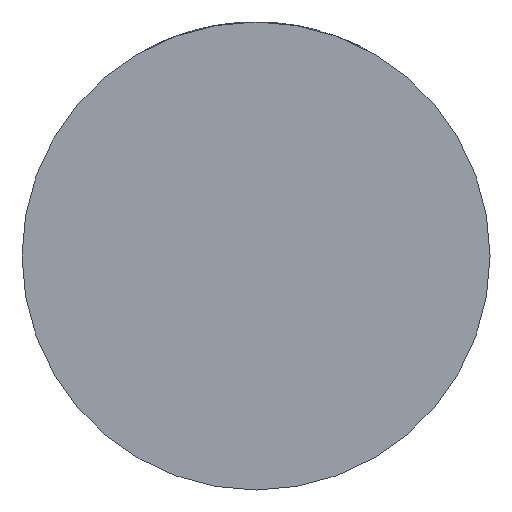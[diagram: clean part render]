
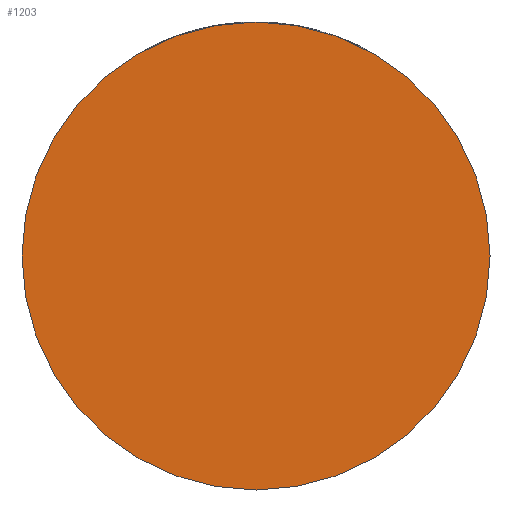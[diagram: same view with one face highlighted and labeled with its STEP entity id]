
A CAD part, front view. The second image highlights one B-rep face of the part: STEP entity #1203.
In plain terms, the highlighted planar face has unit normal (0, -1, 0).
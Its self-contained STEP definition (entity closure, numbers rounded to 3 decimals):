
#122 = EDGE_LOOP ( 'NONE', ( #777, #3093 ) ) ;
#328 = DIRECTION ( 'NONE',  ( 1., 0., 0. ) ) ;
#361 = AXIS2_PLACEMENT_3D ( 'NONE', #3827, #680, #328 ) ;
#408 = EDGE_CURVE ( 'NONE', #3249, #852, #1563, .T. ) ;
#680 = DIRECTION ( 'NONE',  ( 0., -1., 0. ) ) ;
#777 = ORIENTED_EDGE ( 'NONE', *, *, #2932, .T. ) ;
#852 = VERTEX_POINT ( 'NONE', #3005 ) ;
#858 = CIRCLE ( 'NONE', #3046, 39. ) ;
#912 = DIRECTION ( 'NONE',  ( 1., 0., 0. ) ) ;
#958 = CARTESIAN_POINT ( 'NONE',  ( 0., -39., 0. ) ) ;
#1120 = AXIS2_PLACEMENT_3D ( 'NONE', #958, #2664, #912 ) ;
#1203 = ADVANCED_FACE ( 'NONE', ( #2076 ), #3470, .T. ) ;
#1563 = CIRCLE ( 'NONE', #1120, 39. ) ;
#2076 = FACE_OUTER_BOUND ( 'NONE', #122, .T. ) ;
#2664 = DIRECTION ( 'NONE',  ( 0., -1., 0. ) ) ;
#2838 = DIRECTION ( 'NONE',  ( 1., 0., 0. ) ) ;
#2932 = EDGE_CURVE ( 'NONE', #852, #3249, #858, .T. ) ;
#3005 = CARTESIAN_POINT ( 'NONE',  ( -39., -39., 0. ) ) ;
#3046 = AXIS2_PLACEMENT_3D ( 'NONE', #4256, #4236, #2838 ) ;
#3093 = ORIENTED_EDGE ( 'NONE', *, *, #408, .T. ) ;
#3249 = VERTEX_POINT ( 'NONE', #4001 ) ;
#3470 = PLANE ( 'NONE',  #361 ) ;
#3827 = CARTESIAN_POINT ( 'NONE',  ( 0., -39., 0. ) ) ;
#4001 = CARTESIAN_POINT ( 'NONE',  ( 39., -39., 0. ) ) ;
#4236 = DIRECTION ( 'NONE',  ( 0., -1., 0. ) ) ;
#4256 = CARTESIAN_POINT ( 'NONE',  ( 0., -39., 0. ) ) ;
